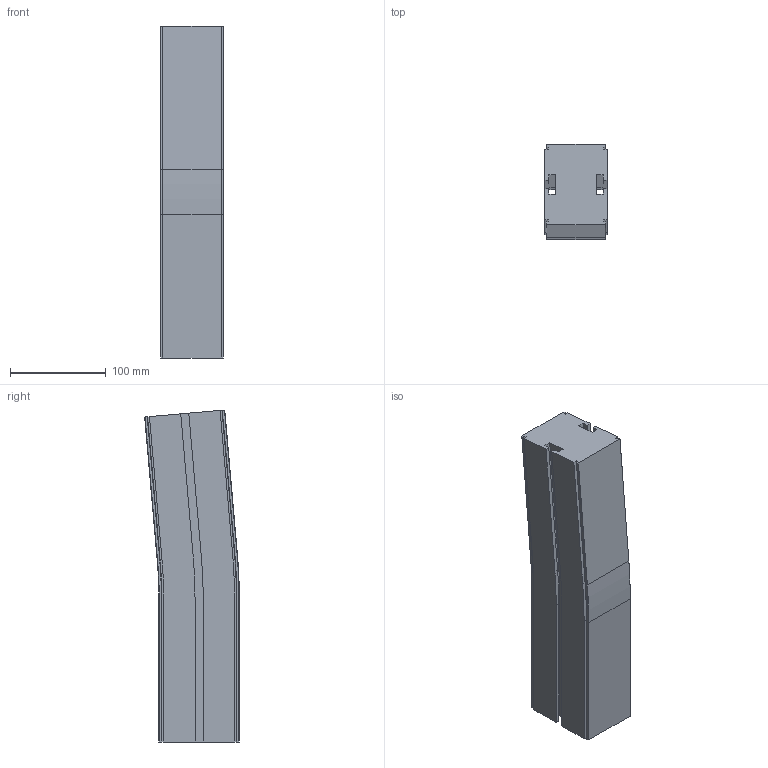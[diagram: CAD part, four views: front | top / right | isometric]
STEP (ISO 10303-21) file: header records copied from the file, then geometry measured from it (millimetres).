
FILE_DESCRIPTION (( 'STEP AP214' ), '1' );
FILE_NAME ('CS SL Verticaalbocht.65 5°.STEP', '2017-02-08T07:37:15', ( '' ), ( '' ), 'SwSTEP 2.0', 'SolidWorks 2016', '' );
FILE_SCHEMA (( 'AUTOMOTIVE_DESIGN' ));
Length unit declared in the file: millimetre
Products named in the file (1): CS SL Verticaalbocht.65 5°
Bounding box: 65 x 98.82 x 346.67 mm (x, y, z)
Volume: 1736938.8 mm3; surface area: 148923.3 mm2
Topology: 1 solids, 1 shells, 98 faces, 272 edges, 176 vertices
Faces by surface type: plane 72, cylinder 18, cone 8
Entity records: 3126 total; most frequent: CARTESIAN_POINT 547, ORIENTED_EDGE 544, DIRECTION 514, EDGE_CURVE 272, VECTOR 228, LINE 228, VERTEX_POINT 176, AXIS2_PLACEMENT_3D 143
